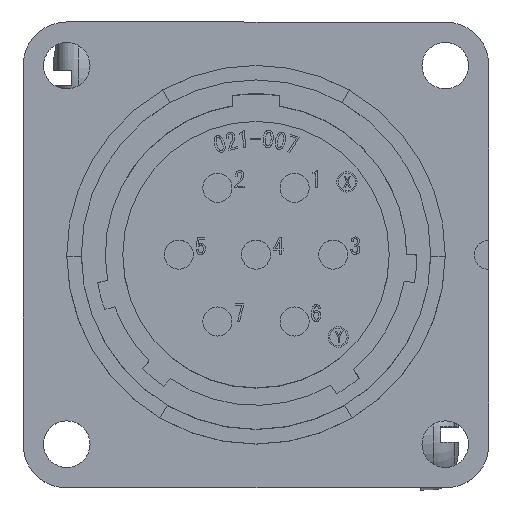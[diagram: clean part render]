
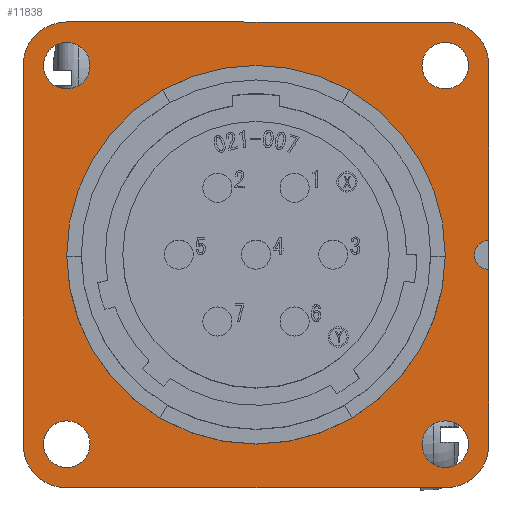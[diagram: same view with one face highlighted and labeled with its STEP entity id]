
A CAD part, top view. The second image highlights one B-rep face of the part: STEP entity #11838.
In plain terms, the highlighted planar face has unit normal (0, 0, 1).
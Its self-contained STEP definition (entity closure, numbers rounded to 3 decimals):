
#476 = CIRCLE ( 'NONE', #29672, 1.6 ) ;
#546 = VECTOR ( 'NONE', #23221, 1000. ) ;
#959 = LINE ( 'NONE', #20960, #546 ) ;
#1170 = CARTESIAN_POINT ( 'NONE',  ( -13., -16., -10.5 ) ) ;
#1367 = PLANE ( 'NONE',  #23699 ) ;
#1389 = VERTEX_POINT ( 'NONE', #18764 ) ;
#2081 = CARTESIAN_POINT ( 'NONE',  ( -13., -13., -10.5 ) ) ;
#2118 = ORIENTED_EDGE ( 'NONE', *, *, #30015, .F. ) ;
#2412 = VERTEX_POINT ( 'NONE', #17647 ) ;
#2415 = DIRECTION ( 'NONE',  ( 0., 0., -1. ) ) ;
#2517 = DIRECTION ( 'NONE',  ( 0., 0., 1. ) ) ;
#2683 = ORIENTED_EDGE ( 'NONE', *, *, #8020, .T. ) ;
#2774 = CIRCLE ( 'NONE', #9255, 3. ) ;
#3010 = FACE_BOUND ( 'NONE', #12749, .T. ) ;
#3365 = CARTESIAN_POINT ( 'NONE',  ( -16., -13., -10.5 ) ) ;
#3408 = DIRECTION ( 'NONE',  ( 0., 1., 0. ) ) ;
#3704 = VERTEX_POINT ( 'NONE', #1170 ) ;
#4045 = CIRCLE ( 'NONE', #20956, 1.6 ) ;
#4083 = CARTESIAN_POINT ( 'NONE',  ( 13., -13., -10.5 ) ) ;
#4361 = VERTEX_POINT ( 'NONE', #4378 ) ;
#4378 = CARTESIAN_POINT ( 'NONE',  ( 13., 14.6, -10.5 ) ) ;
#4867 = LINE ( 'NONE', #21897, #15411 ) ;
#5417 = EDGE_CURVE ( 'NONE', #23636, #3704, #2774, .T. ) ;
#5496 = ORIENTED_EDGE ( 'NONE', *, *, #28025, .T. ) ;
#5558 = VERTEX_POINT ( 'NONE', #20026 ) ;
#5572 = VECTOR ( 'NONE', #10587, 1000. ) ;
#5623 = CARTESIAN_POINT ( 'NONE',  ( 0., -16., -10.5 ) ) ;
#6089 = CIRCLE ( 'NONE', #6980, 13. ) ;
#6209 = AXIS2_PLACEMENT_3D ( 'NONE', #25646, #20602, #30654 ) ;
#6566 = CARTESIAN_POINT ( 'NONE',  ( -13., 16., -10.5 ) ) ;
#6600 = LINE ( 'NONE', #29897, #11260 ) ;
#6674 = CARTESIAN_POINT ( 'NONE',  ( 0., 0., -10.5 ) ) ;
#6823 = DIRECTION ( 'NONE',  ( 1., 0., 0. ) ) ;
#6980 = AXIS2_PLACEMENT_3D ( 'NONE', #6674, #31802, #16678 ) ;
#7022 = DIRECTION ( 'NONE',  ( 0., 1., 0. ) ) ;
#7225 = ORIENTED_EDGE ( 'NONE', *, *, #22923, .F. ) ;
#7267 = DIRECTION ( 'NONE',  ( 0., 0., 1. ) ) ;
#7814 = VERTEX_POINT ( 'NONE', #30170 ) ;
#7982 = CARTESIAN_POINT ( 'NONE',  ( -13., 13., -10.5 ) ) ;
#8020 = EDGE_CURVE ( 'NONE', #28612, #19135, #16368, .T. ) ;
#8398 = VERTEX_POINT ( 'NONE', #31487 ) ;
#8809 = DIRECTION ( 'NONE',  ( -1., 0., 0. ) ) ;
#8893 = ORIENTED_EDGE ( 'NONE', *, *, #11012, .F. ) ;
#9255 = AXIS2_PLACEMENT_3D ( 'NONE', #25879, #16047, #18426 ) ;
#10067 = DIRECTION ( 'NONE',  ( 0., 0., -1. ) ) ;
#10373 = CARTESIAN_POINT ( 'NONE',  ( 13., -16., -10.5 ) ) ;
#10531 = CARTESIAN_POINT ( 'NONE',  ( 16., 13., -10.5 ) ) ;
#10587 = DIRECTION ( 'NONE',  ( 0., -1., 0. ) ) ;
#10963 = ORIENTED_EDGE ( 'NONE', *, *, #14747, .F. ) ;
#11012 = EDGE_CURVE ( 'NONE', #13689, #19671, #6600, .T. ) ;
#11260 = VECTOR ( 'NONE', #14844, 1000. ) ;
#11834 = CIRCLE ( 'NONE', #19272, 3. ) ;
#11838 = ADVANCED_FACE ( 'NONE', ( #19762, #3010, #18614, #13162, #22862, #25547 ), #1367, .F. ) ;
#12626 = CIRCLE ( 'NONE', #30476, 1. ) ;
#12749 = EDGE_LOOP ( 'NONE', ( #20052 ) ) ;
#12889 = CARTESIAN_POINT ( 'NONE',  ( 16., 0., -10.5 ) ) ;
#13162 = FACE_BOUND ( 'NONE', #28283, .T. ) ;
#13639 = CARTESIAN_POINT ( 'NONE',  ( 13., 16., -10.5 ) ) ;
#13689 = VERTEX_POINT ( 'NONE', #6566 ) ;
#13768 = CARTESIAN_POINT ( 'NONE',  ( 13., 13., -10.5 ) ) ;
#13921 = CARTESIAN_POINT ( 'NONE',  ( 0., 16., -10.5 ) ) ;
#14224 = CARTESIAN_POINT ( 'NONE',  ( 13., -13., -10.5 ) ) ;
#14248 = DIRECTION ( 'NONE',  ( 0., 0., -1. ) ) ;
#14424 = DIRECTION ( 'NONE',  ( 0., -1., 0. ) ) ;
#14719 = EDGE_CURVE ( 'NONE', #19671, #31798, #11834, .T. ) ;
#14747 = EDGE_CURVE ( 'NONE', #8398, #1389, #12626, .T. ) ;
#14770 = EDGE_CURVE ( 'NONE', #25750, #25750, #4045, .T. ) ;
#14844 = DIRECTION ( 'NONE',  ( 1., 0., 0. ) ) ;
#15411 = VECTOR ( 'NONE', #7022, 1000. ) ;
#15484 = CARTESIAN_POINT ( 'NONE',  ( 13., 13., -10.5 ) ) ;
#15619 = CARTESIAN_POINT ( 'NONE',  ( 16., -13., -10.5 ) ) ;
#15699 = CARTESIAN_POINT ( 'NONE',  ( 16., 0., -10.5 ) ) ;
#15956 = DIRECTION ( 'NONE',  ( -1., 0., 0. ) ) ;
#16047 = DIRECTION ( 'NONE',  ( 0., 0., 1. ) ) ;
#16159 = AXIS2_PLACEMENT_3D ( 'NONE', #2081, #2415, #14424 ) ;
#16368 = CIRCLE ( 'NONE', #27596, 3. ) ;
#16678 = DIRECTION ( 'NONE',  ( -1., 0., 0. ) ) ;
#16869 = EDGE_CURVE ( 'NONE', #21901, #21901, #476, .T. ) ;
#16980 = ORIENTED_EDGE ( 'NONE', *, *, #14719, .F. ) ;
#17119 = EDGE_CURVE ( 'NONE', #1389, #19135, #29261, .T. ) ;
#17441 = LINE ( 'NONE', #5623, #28680 ) ;
#17556 = DIRECTION ( 'NONE',  ( 0., 0., -1. ) ) ;
#17647 = CARTESIAN_POINT ( 'NONE',  ( -13., 0., -10.5 ) ) ;
#17664 = DIRECTION ( 'NONE',  ( -1., 0., 0. ) ) ;
#17756 = EDGE_LOOP ( 'NONE', ( #31667 ) ) ;
#18116 = CIRCLE ( 'NONE', #16159, 1.6 ) ;
#18209 = EDGE_CURVE ( 'NONE', #13689, #7814, #26461, .T. ) ;
#18284 = ORIENTED_EDGE ( 'NONE', *, *, #28230, .F. ) ;
#18426 = DIRECTION ( 'NONE',  ( -1., 0., 0. ) ) ;
#18563 = ORIENTED_EDGE ( 'NONE', *, *, #5417, .T. ) ;
#18614 = FACE_BOUND ( 'NONE', #21070, .T. ) ;
#18661 = DIRECTION ( 'NONE',  ( 0., 0., -1. ) ) ;
#18764 = CARTESIAN_POINT ( 'NONE',  ( 16., -1., -10.5 ) ) ;
#19135 = VERTEX_POINT ( 'NONE', #15619 ) ;
#19170 = EDGE_CURVE ( 'NONE', #4361, #4361, #26781, .T. ) ;
#19272 = AXIS2_PLACEMENT_3D ( 'NONE', #15484, #17556, #17664 ) ;
#19298 = ORIENTED_EDGE ( 'NONE', *, *, #18209, .T. ) ;
#19671 = VERTEX_POINT ( 'NONE', #13639 ) ;
#19762 = FACE_OUTER_BOUND ( 'NONE', #29438, .T. ) ;
#20026 = CARTESIAN_POINT ( 'NONE',  ( -13., -14.6, -10.5 ) ) ;
#20052 = ORIENTED_EDGE ( 'NONE', *, *, #26062, .T. ) ;
#20602 = DIRECTION ( 'NONE',  ( 0., 0., 1. ) ) ;
#20956 = AXIS2_PLACEMENT_3D ( 'NONE', #7982, #10067, #27517 ) ;
#20960 = CARTESIAN_POINT ( 'NONE',  ( 16., 0., -10.5 ) ) ;
#21070 = EDGE_LOOP ( 'NONE', ( #28842 ) ) ;
#21149 = EDGE_LOOP ( 'NONE', ( #5496 ) ) ;
#21889 = CARTESIAN_POINT ( 'NONE',  ( 14.6, -13., -10.5 ) ) ;
#21897 = CARTESIAN_POINT ( 'NONE',  ( -16., 0., -10.5 ) ) ;
#21901 = VERTEX_POINT ( 'NONE', #21889 ) ;
#22862 = FACE_BOUND ( 'NONE', #17756, .T. ) ;
#22923 = EDGE_CURVE ( 'NONE', #31798, #8398, #959, .T. ) ;
#23221 = DIRECTION ( 'NONE',  ( 0., -1., 0. ) ) ;
#23636 = VERTEX_POINT ( 'NONE', #3365 ) ;
#23699 = AXIS2_PLACEMENT_3D ( 'NONE', #13921, #14248, #8809 ) ;
#24145 = DIRECTION ( 'NONE',  ( 0., 0., -1. ) ) ;
#25014 = DIRECTION ( 'NONE',  ( -1., 0., 0. ) ) ;
#25547 = FACE_BOUND ( 'NONE', #21149, .T. ) ;
#25646 = CARTESIAN_POINT ( 'NONE',  ( -13., 13., -10.5 ) ) ;
#25750 = VERTEX_POINT ( 'NONE', #31933 ) ;
#25879 = CARTESIAN_POINT ( 'NONE',  ( -13., -13., -10.5 ) ) ;
#26062 = EDGE_CURVE ( 'NONE', #2412, #2412, #6089, .T. ) ;
#26461 = CIRCLE ( 'NONE', #6209, 3. ) ;
#26781 = CIRCLE ( 'NONE', #29918, 1.6 ) ;
#27517 = DIRECTION ( 'NONE',  ( -1., 0., 0. ) ) ;
#27596 = AXIS2_PLACEMENT_3D ( 'NONE', #4083, #7267, #25014 ) ;
#27890 = ORIENTED_EDGE ( 'NONE', *, *, #19170, .T. ) ;
#28025 = EDGE_CURVE ( 'NONE', #5558, #5558, #18116, .T. ) ;
#28230 = EDGE_CURVE ( 'NONE', #28612, #3704, #17441, .T. ) ;
#28283 = EDGE_LOOP ( 'NONE', ( #27890 ) ) ;
#28571 = ORIENTED_EDGE ( 'NONE', *, *, #17119, .F. ) ;
#28612 = VERTEX_POINT ( 'NONE', #10373 ) ;
#28680 = VECTOR ( 'NONE', #15956, 1000. ) ;
#28842 = ORIENTED_EDGE ( 'NONE', *, *, #14770, .T. ) ;
#29261 = LINE ( 'NONE', #15699, #5572 ) ;
#29438 = EDGE_LOOP ( 'NONE', ( #28571, #10963, #7225, #16980, #8893, #19298, #2118, #18563, #18284, #2683 ) ) ;
#29672 = AXIS2_PLACEMENT_3D ( 'NONE', #14224, #24145, #6823 ) ;
#29897 = CARTESIAN_POINT ( 'NONE',  ( 0., 16., -10.5 ) ) ;
#29918 = AXIS2_PLACEMENT_3D ( 'NONE', #13768, #18661, #3408 ) ;
#30015 = EDGE_CURVE ( 'NONE', #23636, #7814, #4867, .T. ) ;
#30170 = CARTESIAN_POINT ( 'NONE',  ( -16., 13., -10.5 ) ) ;
#30225 = DIRECTION ( 'NONE',  ( 1., 0., 0. ) ) ;
#30476 = AXIS2_PLACEMENT_3D ( 'NONE', #12889, #2517, #30225 ) ;
#30654 = DIRECTION ( 'NONE',  ( -1., 0., 0. ) ) ;
#31487 = CARTESIAN_POINT ( 'NONE',  ( 16., 1., -10.5 ) ) ;
#31667 = ORIENTED_EDGE ( 'NONE', *, *, #16869, .T. ) ;
#31798 = VERTEX_POINT ( 'NONE', #10531 ) ;
#31802 = DIRECTION ( 'NONE',  ( 0., 0., -1. ) ) ;
#31933 = CARTESIAN_POINT ( 'NONE',  ( -14.6, 13., -10.5 ) ) ;
